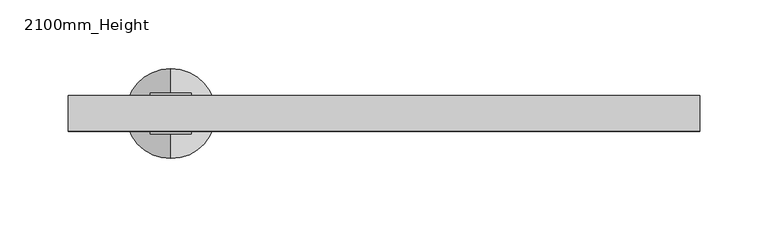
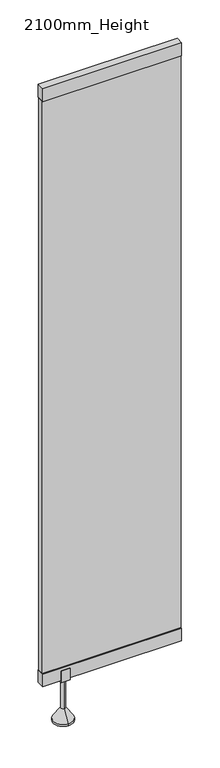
"""IFC4 building model written with IfcOpenShell, lengths in millimetres: flow terminal geometry, Plumbing_Fixtures_Toile_Cubicle_Extension_Panel : 2100mm_Height."""

import ifcopenshell
import ifcopenshell.guid

model = None  # the IFC model being written
_history = None  # IfcOwnerHistory: only IFC2X3 demands one
_inside = {}  # id of a spatial element -> (the spatial element, [elements in it])
_under = {}  # id of a project, library or spatial element -> (it, [spatial elements below it])
_declared = {}  # id of a project -> (the project, [libraries it declares])
_typed = {}  # id of a type object -> (the type object, [elements of that type])
_made_of = {}  # id of a material, layer set ... -> (it, [elements and type objects made of it])


def new_model(schema):
    """Start an empty IFC model of exactly this schema.

    Asked for "IFC4X3", IfcOpenShell would pick the latest addendum, in which some entities
    have other attributes; the version numbers below select the first issue.
    IFC2X3 requires an IfcOwnerHistory on every rooted entity: one is made here for all.
    """
    global model, _history
    if schema == "IFC4X3":
        model = ifcopenshell.file(schema_version=(4, 3, 0, 0))
    else:
        model = ifcopenshell.file(schema=schema)
    _inside.clear()
    _under.clear()
    _declared.clear()
    _typed.clear()
    _made_of.clear()
    _history = None
    if model.schema == "IFC2X3":
        org = make("IfcOrganization", Name="unknown")
        user = make(
            "IfcPersonAndOrganization",
            ThePerson=make("IfcPerson", FamilyName="unknown"),
            TheOrganization=org,
        )
        app = make(
            "IfcApplication",
            ApplicationDeveloper=org,
            Version="unknown",
            ApplicationFullName="unknown",
            ApplicationIdentifier="unknown",
        )
        _history = make(
            "IfcOwnerHistory",
            OwningUser=user,
            OwningApplication=app,
            ChangeAction="ADDED",
            CreationDate=0,
        )
    return model


def make(cls, **values):
    """One entity of the class cls with the attributes given. An attribute that is None is left unset."""
    return model.create_entity(
        cls, **{name: value for name, value in values.items() if value is not None}
    )


def rooted(cls, **values):
    """An entity with a GlobalId (a new one), such as an element, a storey or a relation."""
    return make(cls, GlobalId=ifcopenshell.guid.new(), OwnerHistory=_history, **values)


def si_unit(unit_type, name, prefix=None):
    """IfcSIUnit, for example si_unit("LENGTHUNIT", "METRE", prefix="MILLI")."""
    return make("IfcSIUnit", UnitType=unit_type, Prefix=prefix, Name=name)


def assignment(units):
    """IfcUnitAssignment: the units of a project."""
    return None if units is None else make("IfcUnitAssignment", Units=units)


def point(xyz):
    """IfcCartesianPoint."""
    return None if xyz is None else make("IfcCartesianPoint", Coordinates=xyz)


def direction(xyz):
    """IfcDirection."""
    return None if xyz is None else make("IfcDirection", DirectionRatios=xyz)


def frame(location, z_axis=None, x_axis=None):
    """IfcAxis2Placement3D, a coordinate frame: its origin and axes. An axis left out is left unset."""
    return make(
        "IfcAxis2Placement3D",
        Location=point(location),
        Axis=direction(z_axis),
        RefDirection=direction(x_axis),
    )


def origin():
    """The frame at (0, 0, 0) with its axes left unset."""
    return frame((0.0, 0.0, 0.0))


def place(relative_to, where):
    """IfcLocalPlacement: puts the frame where relative to a parent placement (None: the world)."""
    return make(
        "IfcLocalPlacement", PlacementRelTo=relative_to, RelativePlacement=where
    )


def context(
    kind, dimensions, precision=None, world=None, true_north=None, identifier=None
):
    """IfcGeometricRepresentationContext, for example the 3D "Model" context."""
    return make(
        "IfcGeometricRepresentationContext",
        ContextIdentifier=identifier,
        ContextType=kind,
        CoordinateSpaceDimension=dimensions,
        Precision=precision,
        WorldCoordinateSystem=world,
        TrueNorth=true_north,
    )


def project(units=None, contexts=None):
    """IfcProject with its units and contexts."""
    return rooted(
        "IfcProject",
        Name="project",
        RepresentationContexts=contexts,
        UnitsInContext=assignment(units),
    )


def spatial(cls, under=None, at=None, **own):
    """A site, building, storey or space (cls), placed at a placement, below another one or the project."""
    s = rooted(cls, ObjectPlacement=at, **own)
    if under is not None:
        _under.setdefault(under.id(), (under, []))[1].append(s)
    return s


def polyline(points):
    """IfcPolyline through the points."""
    return make("IfcPolyline", Points=[point(p) for p in points])


def circle_curve(where, radius):
    """IfcCircle in the frame where."""
    return make("IfcCircle", Position=where, Radius=radius)


def outline(outer, holes=None, kind="AREA"):
    """IfcArbitraryClosedProfileDef: a profile drawn as a closed curve; with holes, ...WithVoids."""
    if holes is None:
        return make("IfcArbitraryClosedProfileDef", ProfileType=kind, OuterCurve=outer)
    return make(
        "IfcArbitraryProfileDefWithVoids",
        ProfileType=kind,
        OuterCurve=outer,
        InnerCurves=holes,
    )


def extrude(swept, where, along, depth):
    """IfcExtrudedAreaSolid: the profile swept, set in the frame where, extruded along a direction by depth."""
    return make(
        "IfcExtrudedAreaSolid",
        SweptArea=swept,
        Position=where,
        ExtrudedDirection=direction(along),
        Depth=depth,
    )


def shape(context_of_items, identifier, shape_type, items):
    """IfcShapeRepresentation: the items that make up one representation, for example the "Body"."""
    return make(
        "IfcShapeRepresentation",
        ContextOfItems=context_of_items,
        RepresentationIdentifier=identifier,
        RepresentationType=shape_type,
        Items=items,
    )


def source(mapping_origin, context_of_items, identifier, shape_type, items):
    """IfcRepresentationMap: a shape defined once, which mapped items show again and again."""
    return make(
        "IfcRepresentationMap",
        MappingOrigin=mapping_origin,
        MappedRepresentation=shape(context_of_items, identifier, shape_type, items),
    )


def transform(
    local_origin,
    x_axis=None,
    y_axis=None,
    z_axis=None,
    scale=None,
    scale2=None,
    scale3=None,
    uniform=True,
):
    """IfcCartesianTransformationOperator3D, or its non-uniform kind. x_axis, y_axis, z_axis: its Axis1, 2, 3."""
    if uniform:
        return make(
            "IfcCartesianTransformationOperator3D",
            Axis1=direction(x_axis),
            Axis2=direction(y_axis),
            LocalOrigin=point(local_origin),
            Scale=scale,
            Axis3=direction(z_axis),
        )
    return make(
        "IfcCartesianTransformationOperator3DnonUniform",
        Axis1=direction(x_axis),
        Axis2=direction(y_axis),
        LocalOrigin=point(local_origin),
        Scale=scale,
        Axis3=direction(z_axis),
        Scale2=scale2,
        Scale3=scale3,
    )


def mapped(mapping_source, mapping_target):
    """IfcMappedItem: shows the shape of a source again, moved by a transform."""
    return make(
        "IfcMappedItem", MappingSource=mapping_source, MappingTarget=mapping_target
    )


def made_of(thing, what):
    """Note that an element or type object is made of a material, layer set ...; save() writes the relation."""
    if what is not None:
        _made_of.setdefault(what.id(), (what, []))[1].append(thing)
    return thing


def element(
    cls,
    number,
    at=None,
    inside=None,
    cuts=None,
    type_object=None,
    material=None,
    context=None,
    identifier="Body",
    shape_type=None,
    held_by="IfcProductDefinitionShape",
    body=None,
    shapes=None,
    **own,
):
    """One element of the class cls, such as IfcWall. Its Tag is "e" and its number.

    at: its placement. inside: the storey or other place that contains it. cuts: it is an
    opening in that element (IfcRelVoidsElement). A single representation is given by context,
    identifier, shape_type and body (its items); several are given by shapes. held_by: the class
    of the entity that holds the representations. save() writes the other relations.
    """
    e = rooted(cls, Tag="e%d" % number, ObjectPlacement=at, **own)
    if body is not None:
        shapes = [shape(context, identifier, shape_type, body)]
    if shapes is not None:
        e.Representation = make(held_by, Representations=shapes)
    if inside is not None:
        _inside.setdefault(inside.id(), (inside, []))[1].append(e)
    if cuts is not None:
        rooted(
            "IfcRelVoidsElement", RelatingBuildingElement=cuts, RelatedOpeningElement=e
        )
    if type_object is not None:
        _typed.setdefault(type_object.id(), (type_object, []))[1].append(e)
    return made_of(e, material)


def aggregate(whole, parts):
    """IfcRelAggregates: a whole, such as a stair, and the parts it consists of."""
    return rooted("IfcRelAggregates", RelatingObject=whole, RelatedObjects=parts)


def save(model, path):
    """Write the relations noted so far, then the file.

    IfcRelAggregates (storeys below a building ...), IfcRelContainedInSpatialStructure (elements
    in a storey), IfcRelDefinesByType, IfcRelAssociatesMaterial and IfcRelDeclares: one each for
    every whole, place, type object, material and project.
    """
    for whole, parts in _under.values():
        aggregate(whole, parts)
    for where, things in _inside.values():
        rooted(
            "IfcRelContainedInSpatialStructure",
            RelatedElements=things,
            RelatingStructure=where,
        )
    for kind, things in _typed.values():
        rooted("IfcRelDefinesByType", RelatedObjects=things, RelatingType=kind)
    for what, things in _made_of.values():
        rooted("IfcRelAssociatesMaterial", RelatedObjects=things, RelatingMaterial=what)
    for by, libraries in _declared.values():
        rooted("IfcRelDeclares", RelatingContext=by, RelatedDefinitions=libraries)
    model.write(path)


def plane_surface(at):
    """IfcPlane: the flat surface through the origin of the frame at, square to its z axis."""
    return make("IfcPlane", Position=at)


def cylinder_surface(at, radius):
    """IfcCylindricalSurface: all points at the distance radius from the z axis of the frame at."""
    return make("IfcCylindricalSurface", Position=at, Radius=radius)


def revolved_surface(curve, axis_point, axis_direction):
    """IfcSurfaceOfRevolution: the curve turned about the line through axis_point along axis_direction."""
    return make(
        "IfcSurfaceOfRevolution",
        SweptCurve=make("IfcArbitraryOpenProfileDef", ProfileType="CURVE", Curve=curve),
        AxisPosition=make("IfcAxis1Placement", Location=point(axis_point), Axis=direction(axis_direction)),
    )


def advanced_brep(points, edges, surfaces, faces):
    """IfcAdvancedBrep: a solid bounded by faces that lie on surfaces and meet in shared edges.

    An edge is (start, end): straight between two places in points (the first is 0);
    or (start, end, curve); or (start, end, curve, False) where it runs against its curve.
    A face is (place in surfaces, loops), or (place, loops, False) where it looks against
    its surface's normal. A loop lists edges by number (the first is 1), with a minus sign
    where the edge is run from its end to its start. The first loop is the outer one.
    """
    corners = [point(p) for p in points]
    vertices = [make("IfcVertexPoint", VertexGeometry=c) for c in corners]
    made = []
    for start, end, *more in edges:
        made.append(
            make(
                "IfcEdgeCurve",
                EdgeStart=vertices[start],
                EdgeEnd=vertices[end],
                EdgeGeometry=more[0] if more else make("IfcPolyline", Points=[corners[start], corners[end]]),
                SameSense=more[1] if len(more) > 1 else True,
            )
        )
    hull = []
    for where, loops, *sense in faces:
        bounds = []
        for j, loop in enumerate(loops):
            ring = [make("IfcOrientedEdge", EdgeElement=made[abs(k) - 1], Orientation=k > 0) for k in loop]
            bounds.append(
                make(
                    "IfcFaceOuterBound" if j == 0 else "IfcFaceBound",
                    Bound=make("IfcEdgeLoop", EdgeList=ring),
                    Orientation=True,
                )
            )
        hull.append(make("IfcAdvancedFace", Bounds=bounds, FaceSurface=surfaces[where], SameSense=sense[0] if sense else True))
    return make("IfcAdvancedBrep", Outer=make("IfcClosedShell", CfsFaces=hull))


def flow_terminal_2100mm_height_6680c838(model_context):
    return source(origin(), model_context, "Body", "SolidModel", [
        extrude(outline(polyline([(-1785.0, 145.0), (-1815.0, 145.0), (-1815.0, 185.0), (-1810.0, 185.0), (-1810.0, 150.0), (-1790.0, 150.0), (-1790.0, 185.0), (-1785.0, 185.0), (-1785.0, 145.0)])), frame((457.9310706, 0.0, 0.0), z_axis=(1.0, 0.0, 0.0), x_axis=(0.0, 1.0, 0.0)), (0.0, 0.0, 1.0), 30.0),
        advanced_brep(
        [(472.9310706, -1832.9430575, 7.2339182), (472.9310706, -1767.0569425, 7.2339182), (472.9310706, -1792.5, 43.57037), (472.9310706, -1807.5, 43.57037), (472.9310706, -1832.9430575, 0.0), (472.9310706, -1767.0569425, 0.0), (472.9310706, -1800.0, 0.0), (472.9310706, -1807.5, 145.0), (472.9310706, -1792.5, 145.0), (472.9310706, -1800.0, 145.0)],
        [
            (0, 1, circle_curve(frame((472.9310706, -1800.0, 7.2339182), z_axis=(0.0, 0.0, 1.0), x_axis=(0.0, 1.0, 0.0)), 32.9430575)),
            (1, 2),
            (2, 3, circle_curve(frame((472.9310706, -1800.0, 43.57037), z_axis=(0.0, 0.0, -1.0), x_axis=(0.0, 1.0, 0.0)), 7.5)),
            (3, 0),
            (1, 0, circle_curve(frame((472.9310706, -1800.0, 7.2339182), z_axis=(0.0, 0.0, 1.0), x_axis=(0.0, 1.0, 0.0)), 32.9430575)),
            (3, 2, circle_curve(frame((472.9310706, -1800.0, 43.57037), z_axis=(0.0, 0.0, -1.0), x_axis=(0.0, 1.0, 0.0)), 7.5)),
            (4, 5, circle_curve(frame((472.9310706, -1800.0, 0.0), z_axis=(0.0, 0.0, 1.0), x_axis=(0.0, 1.0, 0.0)), 32.9430575)),
            (5, 1),
            (0, 4),
            (5, 4, circle_curve(frame((472.9310706, -1800.0, 0.0), z_axis=(0.0, 0.0, 1.0), x_axis=(0.0, 1.0, 0.0)), 32.9430575)),
            (6, 5),
            (4, 6),
            (7, 8, circle_curve(frame((472.9310706, -1800.0, 145.0), z_axis=(0.0, 0.0, 1.0), x_axis=(0.0, 1.0, 0.0)), 7.5)),
            (8, 9),
            (9, 7),
            (8, 7, circle_curve(frame((472.9310706, -1800.0, 145.0), z_axis=(0.0, 0.0, 1.0), x_axis=(0.0, 1.0, 0.0)), 7.5)),
            (2, 8),
            (7, 3),
        ],
        [
            revolved_surface(polyline([(472.9310706, -1792.5, 43.57037), (472.9310706, -1767.0569425, 7.2339182)]), (472.9310706, -1800.0, -60.0), (0.0, 0.0, -1.0)),
            cylinder_surface(frame((472.9310706, -1800.0, -60.0), z_axis=(0.0, 0.0, -1.0), x_axis=(0.0, 1.0, 0.0)), 32.9430575),
            plane_surface(frame((472.9310706, -1800.0, 0.0), z_axis=(0.0, 0.0, -1.0), x_axis=(0.0, 1.0, 0.0))),
            plane_surface(frame((472.9310706, -1800.0, 145.0), z_axis=(0.0, 0.0, 1.0), x_axis=(0.0, 1.0, 0.0))),
            cylinder_surface(frame((472.9310706, -1800.0, -60.0), z_axis=(0.0, 0.0, -1.0), x_axis=(0.0, 1.0, 0.0)), 7.5),
        ],
        [
            (0, [[1, 2, 3, 4]]),
            (0, [[5, -4, 6, -2]]),
            (1, [[7, 8, -1, 9]]),
            (1, [[10, -9, -5, -8]]),
            (2, [[11, -7, 12]]),
            (2, [[-12, -10, -11]]),
            (3, [[13, 14, 15]]),
            (3, [[16, -15, -14]]),
            (4, [[-3, 17, -13, 18]]),
            (4, [[-6, -18, -16, -17]]),
        ],
    ),
        extrude(outline(polyline([(859.9310706, -1813.0), (397.9310706, -1813.0), (397.9310706, -1787.2947936), (859.9310706, -1787.2947936), (859.9310706, -1813.0)])), frame((0.0, 0.0, 2205.0), z_axis=(0.0, 0.0, 1.0), x_axis=(1.0, 0.0, 0.0)), (0.0, 0.0, 1.0), 45.0),
        extrude(outline(polyline([(859.9310706, -1813.0), (397.9310706, -1813.0), (397.9310706, -1787.2947936), (859.9310706, -1787.2947936), (859.9310706, -1813.0)])), frame((0.0, 0.0, 150.0), z_axis=(0.0, 0.0, 1.0), x_axis=(1.0, 0.0, 0.0)), (0.0, 0.0, 1.0), 45.0),
        extrude(outline(polyline([(397.9310706, -1810.0), (397.9310706, -1790.0), (859.9310706, -1790.0), (859.9310706, -1810.0), (397.9310706, -1810.0)])), frame((0.0, 0.0, 195.0), z_axis=(0.0, 0.0, 1.0), x_axis=(1.0, 0.0, 0.0)), (0.0, 0.0, 1.0), 2010.0),
    ])


if __name__ == "__main__":
    model = new_model("IFC4")
    model_context = context("Model", 3, world=origin())
    ifc_project = project(units=[si_unit("LENGTHUNIT", "METRE", prefix="MILLI")], contexts=[model_context])
    site = spatial("IfcSite", under=ifc_project)
    building = spatial("IfcBuilding", under=site)
    placement = place(None, origin())
    flow_terminal_2100mm_height_shape = flow_terminal_2100mm_height_6680c838(model_context)
    element("IfcFlowTerminal", 1, ObjectType="Plumbing_Fixtures_Toile_Cubicle_Extension_Panel : 2100mm_Height", at=placement, inside=building, context=model_context, shape_type="MappedRepresentation", body=[
        mapped(flow_terminal_2100mm_height_shape, transform((0.0, 0.0, 0.0), x_axis=(1.0, 0.0, 0.0), y_axis=(0.0, 1.0, 0.0), z_axis=(0.0, 0.0, 1.0))),
    ])
    save(model, "model.ifc")
